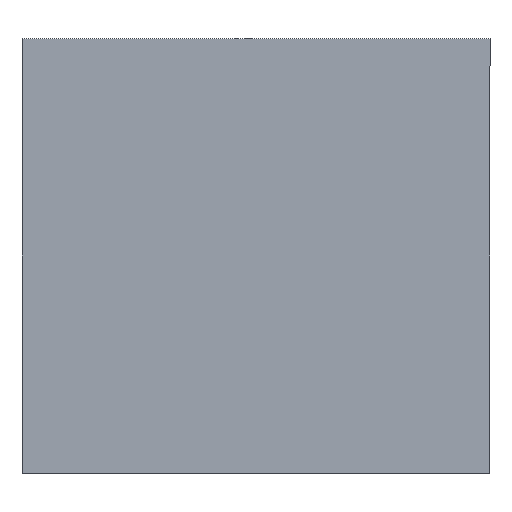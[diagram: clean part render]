
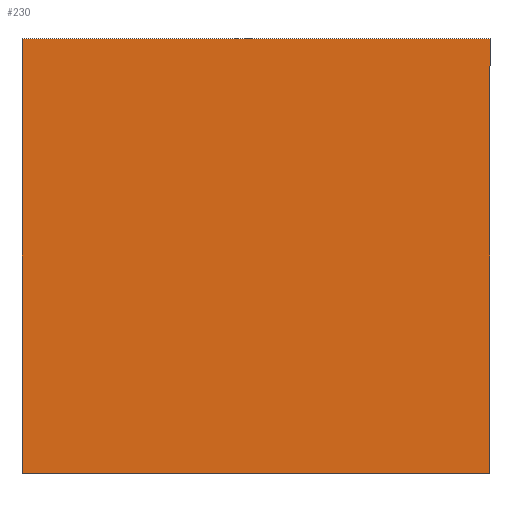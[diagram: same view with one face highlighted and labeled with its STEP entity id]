
A CAD part, front view. The second image highlights one B-rep face of the part: STEP entity #230.
In plain terms, the highlighted planar face has unit normal (0, -1, 0).
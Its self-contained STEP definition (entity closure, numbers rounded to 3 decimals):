
#13 = DIRECTION ( 'NONE',  ( -1., 0., 0. ) ) ;
#15 = CARTESIAN_POINT ( 'NONE',  ( 0., 0., 0. ) ) ;
#29 = LINE ( 'NONE', #236, #221 ) ;
#35 = VECTOR ( 'NONE', #53, 1000. ) ;
#37 = EDGE_CURVE ( 'NONE', #252, #326, #239, .T. ) ;
#50 = VECTOR ( 'NONE', #13, 1000. ) ;
#51 = CARTESIAN_POINT ( 'NONE',  ( 0., 0., 0. ) ) ;
#53 = DIRECTION ( 'NONE',  ( 1., 0., 0. ) ) ;
#54 = EDGE_LOOP ( 'NONE', ( #161, #237, #310, #254 ) ) ;
#55 = DIRECTION ( 'NONE',  ( 0., 0., -1. ) ) ;
#67 = AXIS2_PLACEMENT_3D ( 'NONE', #51, #210, #55 ) ;
#102 = PLANE ( 'NONE',  #67 ) ;
#115 = VERTEX_POINT ( 'NONE', #292 ) ;
#146 = CARTESIAN_POINT ( 'NONE',  ( 14., 0., 0. ) ) ;
#161 = ORIENTED_EDGE ( 'NONE', *, *, #303, .F. ) ;
#173 = EDGE_CURVE ( 'NONE', #115, #252, #248, .T. ) ;
#174 = DIRECTION ( 'NONE',  ( 0., 0., -1. ) ) ;
#178 = CARTESIAN_POINT ( 'NONE',  ( 0., 0., 0. ) ) ;
#210 = DIRECTION ( 'NONE',  ( 0., -1., 0. ) ) ;
#213 = VERTEX_POINT ( 'NONE', #15 ) ;
#221 = VECTOR ( 'NONE', #258, 1000. ) ;
#230 = ADVANCED_FACE ( 'NONE', ( #309 ), #102, .T. ) ;
#236 = CARTESIAN_POINT ( 'NONE',  ( 0., 0., 0. ) ) ;
#237 = ORIENTED_EDGE ( 'NONE', *, *, #37, .F. ) ;
#239 = LINE ( 'NONE', #314, #50 ) ;
#248 = LINE ( 'NONE', #146, #308 ) ;
#252 = VERTEX_POINT ( 'NONE', #253 ) ;
#253 = CARTESIAN_POINT ( 'NONE',  ( 14., 0., -13. ) ) ;
#254 = ORIENTED_EDGE ( 'NONE', *, *, #298, .F. ) ;
#258 = DIRECTION ( 'NONE',  ( 0., 0., 1. ) ) ;
#292 = CARTESIAN_POINT ( 'NONE',  ( 14., 0., 0. ) ) ;
#298 = EDGE_CURVE ( 'NONE', #213, #115, #302, .T. ) ;
#302 = LINE ( 'NONE', #178, #35 ) ;
#303 = EDGE_CURVE ( 'NONE', #326, #213, #29, .T. ) ;
#308 = VECTOR ( 'NONE', #174, 1000. ) ;
#309 = FACE_OUTER_BOUND ( 'NONE', #54, .T. ) ;
#310 = ORIENTED_EDGE ( 'NONE', *, *, #173, .F. ) ;
#314 = CARTESIAN_POINT ( 'NONE',  ( 0., 0., -13. ) ) ;
#326 = VERTEX_POINT ( 'NONE', #327 ) ;
#327 = CARTESIAN_POINT ( 'NONE',  ( 0., 0., -13. ) ) ;
